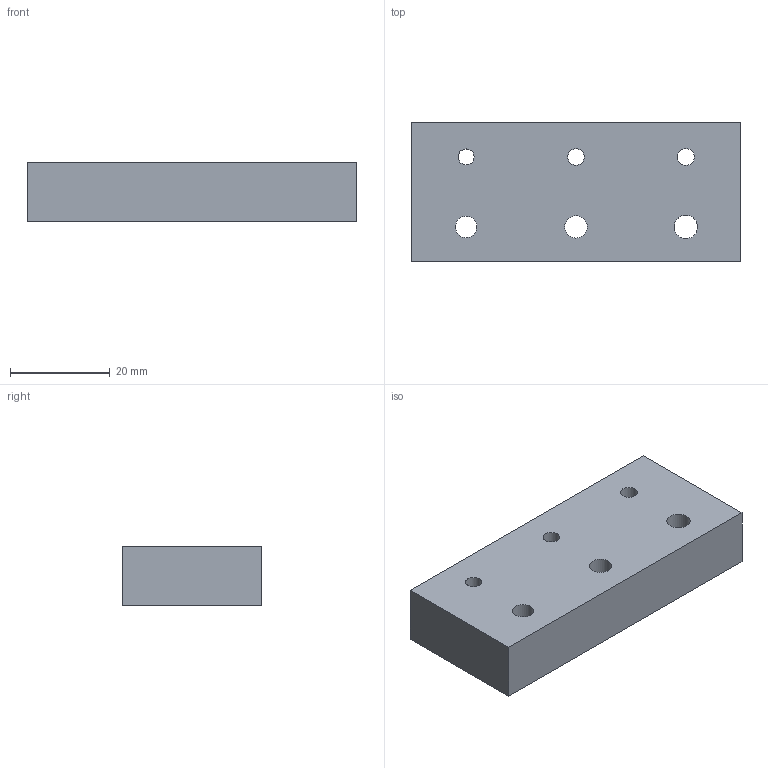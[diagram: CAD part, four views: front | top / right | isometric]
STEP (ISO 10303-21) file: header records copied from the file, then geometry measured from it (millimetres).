
FILE_DESCRIPTION(('Open CASCADE Model'),'2;1');
FILE_NAME('Open CASCADE Shape Model','2026-11-08T05:54:15',('Author'),( 'Open CASCADE'),'Open CASCADE STEP processor 7.8','Open CASCADE 7.8' ,'Unknown');
FILE_SCHEMA(('AUTOMOTIVE_DESIGN { 1 0 10303 214 1 1 1 1 }'));
Length unit declared in the file: millimetre
Products named in the file (1): Open CASCADE STEP translator 7.8 8
Bounding box: 66 x 28 x 12 mm (x, y, z)
Volume: 21294.6 mm3; surface area: 6687.3 mm2
Topology: 1 solids, 1 shells, 12 faces, 30 edges, 20 vertices
Faces by surface type: plane 6, cylinder 6
Full cylindrical faces by diameter (mm): 3.2 x1, 3.3 x1, 3.4 x1, 4.3 x1, 4.5 x1, 4.7 x1
Entity records: 790 total; most frequent: DIRECTION 128, CARTESIAN_POINT 123, LINE 66, VECTOR 66, ORIENTED_EDGE 60, PCURVE 60, DEFINITIONAL_REPRESENTATION 60, EDGE_CURVE 30
